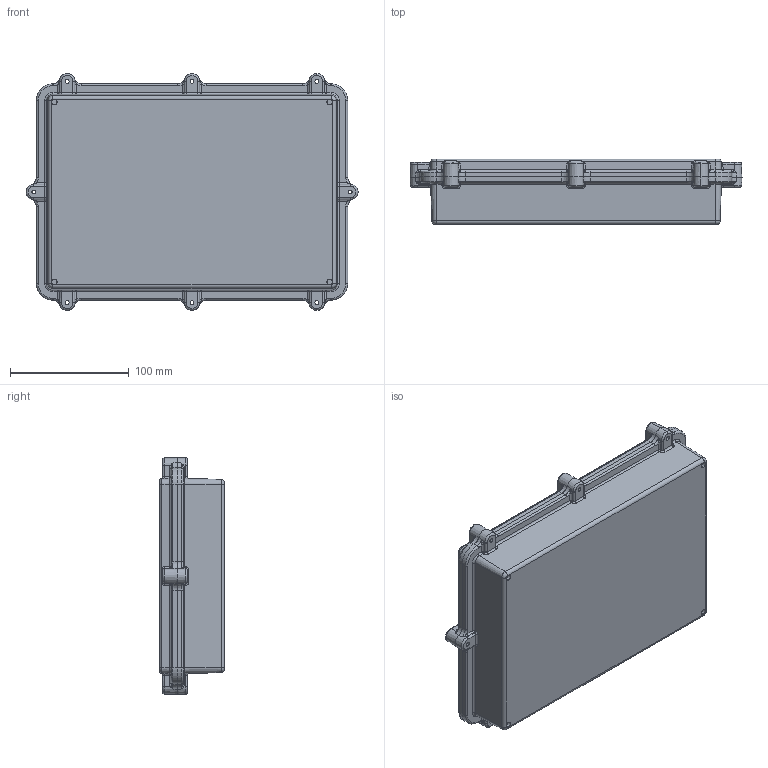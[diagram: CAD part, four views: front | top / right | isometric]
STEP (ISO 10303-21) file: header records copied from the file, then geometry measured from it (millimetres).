
FILE_DESCRIPTION (( 'STEP AP203' ), '1' );
FILE_NAME ('SE-570-0-0.STEP', '2018-09-29T13:13:00', ( '' ), ( '' ), 'SwSTEP 2.0', 'SolidWorks 2018', '' );
FILE_SCHEMA (( 'CONFIG_CONTROL_DESIGN' ));
Length unit declared in the file: millimetre
Products named in the file (3): SE-570-P-2; SE-570-0-0; SE-570-P-1
Assembly tree (2 placements, depth 2):
  SE-570-0-0
    SE-570-P-1
    SE-570-P-2
Bounding box: 279.15 x 54.8 x 199.2 mm (x, y, z)
Volume: 353060.2 mm3; surface area: 293410.4 mm2
Topology: 2 solids, 2 shells, 822 faces, 1989 edges, 1162 vertices
Faces by surface type: cylinder 248, plane 211, bspline 176, cone 107, torus 48, sphere 32
Entity records: 29180 total; most frequent: CARTESIAN_POINT 10890, ORIENTED_EDGE 3914, DIRECTION 3621, EDGE_CURVE 1957, AXIS2_PLACEMENT_3D 1397, VERTEX_POINT 1162, EDGE_LOOP 877, VECTOR 827
